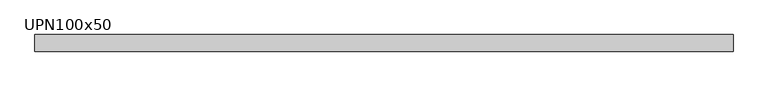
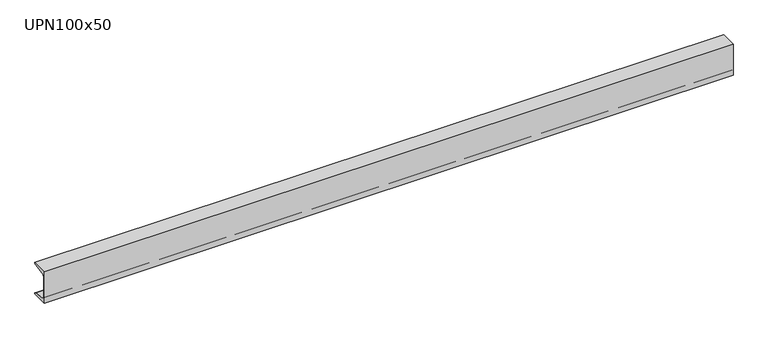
"""IFC4 building model written with IfcOpenShell, lengths in millimetres: beam geometry, M_MC Shapes : UPN100x50."""

from ifc_helpers import new_model, si_unit, point, frame, frame_2d, origin, place, context, project, spatial, polyline, circle_curve, trimmed, segment, composite_curve, outline, extrude, source, transform, mapped, element, save


def upn100x50_641ecec3(model_context):
    return source(origin(), model_context, "Body", "SweptSolid", [
        extrude(outline(composite_curve([segment(polyline([(-10.9, 50.0), (39.1, 50.0), (39.1, 49.0253247)]), True, "CONTINUOUS"), segment(trimmed(circle_curve(frame_2d((35.15, 49.0253247)), 3.95), [point((39.1, 49.0253247))], [point((35.7993773, 45.1290689))], False, "CARTESIAN"), True, "CONTINUOUS"), segment(polyline([(35.7993773, 45.1290689), (0.2512455, 39.2043685)]), True, "CONTINUOUS"), segment(trimmed(circle_curve(frame_2d((1.55, 31.4118569)), 7.9), [point((0.2512455, 39.2043685))], [point((-6.35, 31.4118569))], True, "CARTESIAN"), True, "CONTINUOUS"), segment(polyline([(-6.35, 31.4118569), (-6.35, -31.4118569)]), True, "CONTINUOUS"), segment(trimmed(circle_curve(frame_2d((1.55, -31.4118569)), 7.9), [point((-6.35, -31.4118569))], [point((0.2512455, -39.2043685))], True, "CARTESIAN"), True, "CONTINUOUS"), segment(polyline([(0.2512455, -39.2043685), (35.7993773, -45.1290689)]), True, "CONTINUOUS"), segment(trimmed(circle_curve(frame_2d((35.15, -49.0253247)), 3.95), [point((35.7993773, -45.1290689))], [point((39.1, -49.0253247))], False, "CARTESIAN"), True, "CONTINUOUS"), segment(polyline([(39.1, -49.0253247), (39.1, -50.0), (-10.9, -50.0), (-10.9, 50.0)]), True, "CONTINUOUS")], self_intersect=False)), frame((-947.55, 0.0, 0.0), z_axis=(1.0, 0.0, 0.0), x_axis=(0.0, 1.0, 0.0)), (0.0, 0.0, 1.0), 2093.4),
    ])


if __name__ == "__main__":
    model = new_model("IFC4")
    model_context = context("Model", 3, world=origin())
    ifc_project = project(units=[si_unit("LENGTHUNIT", "METRE", prefix="MILLI")], contexts=[model_context])
    site = spatial("IfcSite", under=ifc_project)
    building = spatial("IfcBuilding", under=site)
    placement = place(None, origin())
    upn100x50_shape = upn100x50_641ecec3(model_context)
    element("IfcBeam", 1, ObjectType="M_MC Shapes : UPN100x50", at=placement, inside=building, context=model_context, shape_type="MappedRepresentation", body=[
        mapped(upn100x50_shape, transform((0.0, 0.0, 0.0), x_axis=(1.0, 0.0, 0.0), y_axis=(0.0, 1.0, 0.0), z_axis=(0.0, 0.0, 1.0))),
    ])
    save(model, "model.ifc")
